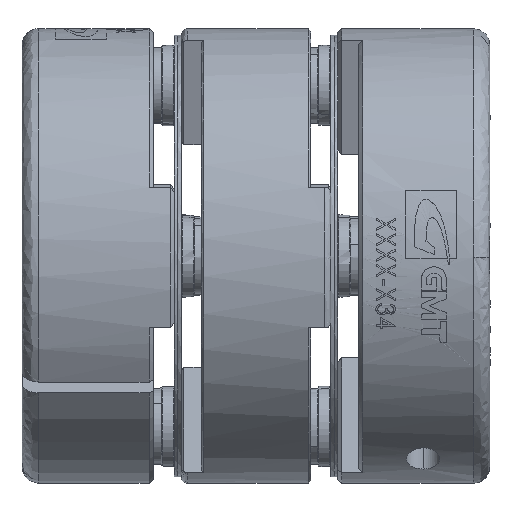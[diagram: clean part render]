
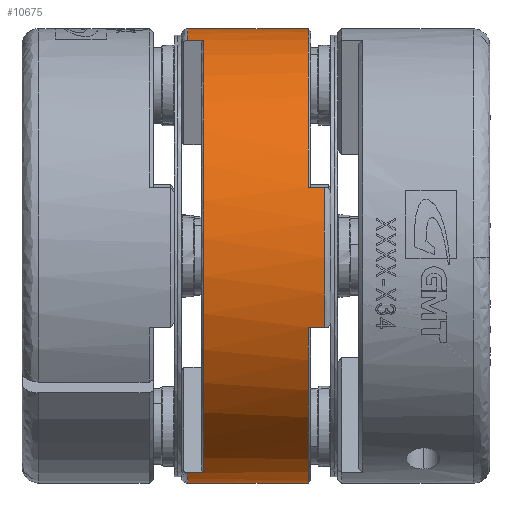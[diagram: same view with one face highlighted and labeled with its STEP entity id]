
A CAD part, left-side view. The second image highlights one B-rep face of the part: STEP entity #10675.
In plain terms, the highlighted cylindrical face has radius 17 mm (diameter 34 mm), a partial arc.
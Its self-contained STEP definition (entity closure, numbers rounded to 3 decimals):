
#2455 = CARTESIAN_POINT ( 'NONE',  ( -22.249, -10.213, -3.267 ) ) ;
#4334 = CARTESIAN_POINT ( 'NONE',  ( -6.114, -1.213, -14.912 ) ) ;
#4846 = CARTESIAN_POINT ( 'NONE',  ( -6.114, -10.213, -14.912 ) ) ;
#5067 = DIRECTION ( 'NONE',  ( 0., -1., 0. ) ) ;
#5068 = VECTOR ( 'NONE', #5067, 1000. ) ;
#5069 = CARTESIAN_POINT ( 'NONE',  ( -6.114, -0.713, -14.912 ) ) ;
#5070 = LINE ( 'NONE', #5069, #5068 ) ;
#9414 = CARTESIAN_POINT ( 'NONE',  ( -22.249, -11.413, -3.267 ) ) ;
#9415 = DIRECTION ( 'NONE',  ( 0., 1., 0. ) ) ;
#9416 = VECTOR ( 'NONE', #9415, 1000. ) ;
#9417 = CARTESIAN_POINT ( 'NONE',  ( -22.249, -10.413, -3.267 ) ) ;
#9418 = LINE ( 'NONE', #9417, #9416 ) ;
#10438 = VERTEX_POINT ( 'NONE', #16901 ) ;
#10489 = VERTEX_POINT ( 'NONE', #17197 ) ;
#10523 = EDGE_CURVE ( 'NONE', #14324, #10489, #17476, .T. ) ;
#10554 = EDGE_CURVE ( 'NONE', #10556, #10438, #17607, .T. ) ;
#10556 = VERTEX_POINT ( 'NONE', #17608 ) ;
#10573 = EDGE_CURVE ( 'NONE', #10438, #10579, #17628, .T. ) ;
#10579 = VERTEX_POINT ( 'NONE', #17615 ) ;
#10661 = EDGE_CURVE ( 'NONE', #10713, #10664, #17265, .T. ) ;
#10664 = VERTEX_POINT ( 'NONE', #17830 ) ;
#10665 = ORIENTED_EDGE ( 'NONE', *, *, #10661, .F. ) ;
#10666 = ORIENTED_EDGE ( 'NONE', *, *, #10670, .T. ) ;
#10667 = ORIENTED_EDGE ( 'NONE', *, *, #10523, .T. ) ;
#10670 = EDGE_CURVE ( 'NONE', #10489, #10664, #17829, .T. ) ;
#10673 = ORIENTED_EDGE ( 'NONE', *, *, #14645, .F. ) ;
#10675 = ADVANCED_FACE ( 'NONE', ( #17818 ), #17813, .F. ) ;
#10676 = EDGE_LOOP ( 'NONE', ( #10673, #10667, #10666, #10665, #10705, #10702, #10700, #10692, #10685, #10681, #18010, #23077 ) ) ;
#10678 = EDGE_CURVE ( 'NONE', #10688, #10679, #17861, .T. ) ;
#10679 = VERTEX_POINT ( 'NONE', #17857 ) ;
#10681 = ORIENTED_EDGE ( 'NONE', *, *, #10684, .F. ) ;
#10682 = EDGE_CURVE ( 'NONE', #10688, #10579, #17856, .T. ) ;
#10684 = EDGE_CURVE ( 'NONE', #18012, #10679, #17844, .T. ) ;
#10685 = ORIENTED_EDGE ( 'NONE', *, *, #10678, .T. ) ;
#10688 = VERTEX_POINT ( 'NONE', #17839 ) ;
#10692 = ORIENTED_EDGE ( 'NONE', *, *, #10682, .F. ) ;
#10700 = ORIENTED_EDGE ( 'NONE', *, *, #10573, .T. ) ;
#10701 = EDGE_CURVE ( 'NONE', #10713, #10556, #17869, .T. ) ;
#10702 = ORIENTED_EDGE ( 'NONE', *, *, #10554, .T. ) ;
#10705 = ORIENTED_EDGE ( 'NONE', *, *, #10701, .T. ) ;
#10713 = VERTEX_POINT ( 'NONE', #17891 ) ;
#10777 = EDGE_CURVE ( 'NONE', #14589, #23075, #17973, .T. ) ;
#14324 = VERTEX_POINT ( 'NONE', #4334 ) ;
#14589 = VERTEX_POINT ( 'NONE', #4846 ) ;
#14645 = EDGE_CURVE ( 'NONE', #14324, #14589, #5070, .T. ) ;
#16901 = CARTESIAN_POINT ( 'NONE',  ( -6.221, -1.213, 19.087 ) ) ;
#17197 = CARTESIAN_POINT ( 'NONE',  ( -11.266, -1.213, -14.113 ) ) ;
#17263 = CARTESIAN_POINT ( 'NONE',  ( -6.114, -2.413, 2.088 ) ) ;
#17264 = AXIS2_PLACEMENT_3D ( 'NONE', #17263, #17560, #17558 ) ;
#17265 = CIRCLE ( 'NONE', #17264, 17. ) ;
#17472 = DIRECTION ( 'NONE',  ( -0.006, 0., 1. ) ) ;
#17473 = DIRECTION ( 'NONE',  ( 0., 1., 0. ) ) ;
#17474 = CARTESIAN_POINT ( 'NONE',  ( -6.114, -1.213, 2.088 ) ) ;
#17475 = AXIS2_PLACEMENT_3D ( 'NONE', #17474, #17473, #17472 ) ;
#17476 = CIRCLE ( 'NONE', #17475, 17. ) ;
#17558 = DIRECTION ( 'NONE',  ( 0., 0., -1. ) ) ;
#17560 = DIRECTION ( 'NONE',  ( 0., -1., 0. ) ) ;
#17594 = DIRECTION ( 'NONE',  ( -0.006, 0., 1. ) ) ;
#17595 = DIRECTION ( 'NONE',  ( 0., 1., 0. ) ) ;
#17606 = AXIS2_PLACEMENT_3D ( 'NONE', #17609, #17595, #17594 ) ;
#17607 = CIRCLE ( 'NONE', #17606, 17. ) ;
#17608 = CARTESIAN_POINT ( 'NONE',  ( -11.469, -1.213, 18.222 ) ) ;
#17609 = CARTESIAN_POINT ( 'NONE',  ( -6.114, -1.213, 2.088 ) ) ;
#17615 = CARTESIAN_POINT ( 'NONE',  ( -6.221, -10.213, 19.087 ) ) ;
#17625 = DIRECTION ( 'NONE',  ( 0., -1., 0. ) ) ;
#17626 = VECTOR ( 'NONE', #17625, 1000. ) ;
#17627 = CARTESIAN_POINT ( 'NONE',  ( -6.221, -0.713, 19.087 ) ) ;
#17628 = LINE ( 'NONE', #17627, #17626 ) ;
#17809 = DIRECTION ( 'NONE',  ( 0., 0., -1. ) ) ;
#17810 = DIRECTION ( 'NONE',  ( 0., -1., 0. ) ) ;
#17811 = CARTESIAN_POINT ( 'NONE',  ( -6.114, -0.713, 2.088 ) ) ;
#17812 = AXIS2_PLACEMENT_3D ( 'NONE', #17811, #17810, #17809 ) ;
#17813 = CYLINDRICAL_SURFACE ( 'NONE', #17812, 17. ) ;
#17818 = FACE_OUTER_BOUND ( 'NONE', #10676, .T. ) ;
#17826 = DIRECTION ( 'NONE',  ( 0., -1., 0. ) ) ;
#17827 = VECTOR ( 'NONE', #17826, 1000. ) ;
#17828 = CARTESIAN_POINT ( 'NONE',  ( -11.266, -2.213, -14.113 ) ) ;
#17829 = LINE ( 'NONE', #17828, #17827 ) ;
#17830 = CARTESIAN_POINT ( 'NONE',  ( -11.266, -2.413, -14.113 ) ) ;
#17839 = CARTESIAN_POINT ( 'NONE',  ( -22.315, -10.213, 7.239 ) ) ;
#17840 = DIRECTION ( 'NONE',  ( 0., 0., -1. ) ) ;
#17841 = DIRECTION ( 'NONE',  ( 0., 1., 0. ) ) ;
#17842 = CARTESIAN_POINT ( 'NONE',  ( -6.114, -11.413, 2.088 ) ) ;
#17843 = AXIS2_PLACEMENT_3D ( 'NONE', #17842, #17841, #17840 ) ;
#17844 = CIRCLE ( 'NONE', #17843, 17. ) ;
#17852 = DIRECTION ( 'NONE',  ( 0., 0., -1. ) ) ;
#17853 = DIRECTION ( 'NONE',  ( 0., 1., 0. ) ) ;
#17854 = CARTESIAN_POINT ( 'NONE',  ( -6.114, -10.213, 2.088 ) ) ;
#17855 = AXIS2_PLACEMENT_3D ( 'NONE', #17854, #17853, #17852 ) ;
#17856 = CIRCLE ( 'NONE', #17855, 17. ) ;
#17857 = CARTESIAN_POINT ( 'NONE',  ( -22.315, -11.413, 7.239 ) ) ;
#17858 = DIRECTION ( 'NONE',  ( 0., -1., 0. ) ) ;
#17859 = VECTOR ( 'NONE', #17858, 1000. ) ;
#17860 = CARTESIAN_POINT ( 'NONE',  ( -22.315, -10.413, 7.239 ) ) ;
#17861 = LINE ( 'NONE', #17860, #17859 ) ;
#17866 = DIRECTION ( 'NONE',  ( 0., 1., 0. ) ) ;
#17867 = VECTOR ( 'NONE', #17866, 1000. ) ;
#17868 = CARTESIAN_POINT ( 'NONE',  ( -11.469, -2.213, 18.222 ) ) ;
#17869 = LINE ( 'NONE', #17868, #17867 ) ;
#17891 = CARTESIAN_POINT ( 'NONE',  ( -11.469, -2.413, 18.222 ) ) ;
#17958 = DIRECTION ( 'NONE',  ( 0., 0., -1. ) ) ;
#17959 = DIRECTION ( 'NONE',  ( 0., 1., 0. ) ) ;
#17960 = CARTESIAN_POINT ( 'NONE',  ( -6.114, -10.213, 2.088 ) ) ;
#17961 = AXIS2_PLACEMENT_3D ( 'NONE', #17960, #17959, #17958 ) ;
#17973 = CIRCLE ( 'NONE', #17961, 17. ) ;
#18010 = ORIENTED_EDGE ( 'NONE', *, *, #18011, .T. ) ;
#18011 = EDGE_CURVE ( 'NONE', #18012, #23075, #9418, .T. ) ;
#18012 = VERTEX_POINT ( 'NONE', #9414 ) ;
#23075 = VERTEX_POINT ( 'NONE', #2455 ) ;
#23077 = ORIENTED_EDGE ( 'NONE', *, *, #10777, .F. ) ;
